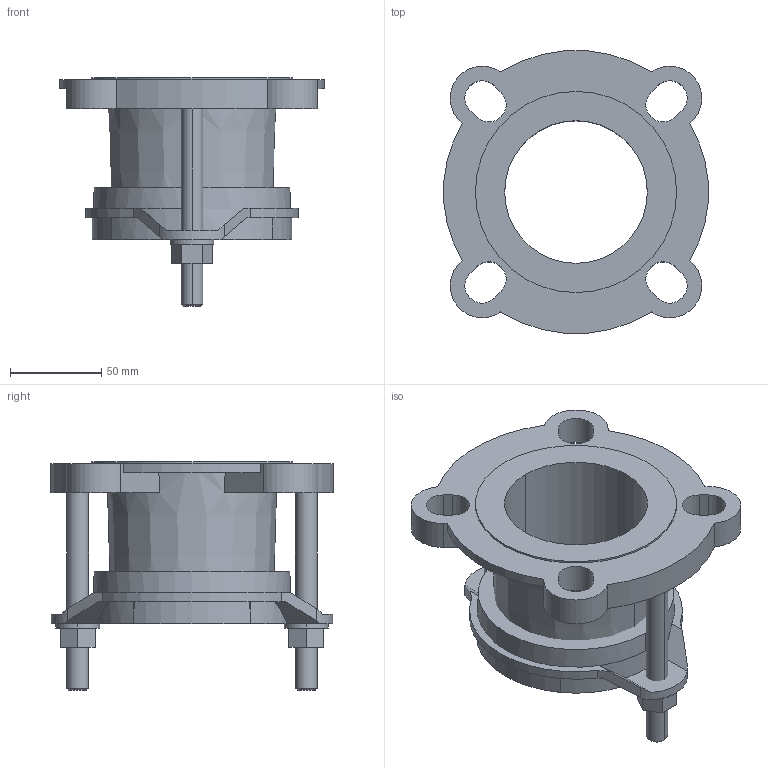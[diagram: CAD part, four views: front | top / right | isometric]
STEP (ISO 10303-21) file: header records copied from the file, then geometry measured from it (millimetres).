
FILE_DESCRIPTION((''),'2;1');
FILE_NAME('FLEXLOCK_76-1_PN_ASM','2020-07-28T',('MReader'),(''),'CREO PARAMETRIC BY PTC INC, 2016130','CREO PARAMETRIC BY PTC INC, 2016130','');
FILE_SCHEMA(('CONFIG_CONTROL_DESIGN'));
Length unit declared in the file: millimetre
Products named in the file (3): FLEXLOCK_ADAPTOR_76-1; FLEXLOCK_ENDRING_76-1; FLEXLOCK_76-1_PN_ASM
Assembly tree (2 placements, depth 2):
  FLEXLOCK_76-1_PN_ASM
    FLEXLOCK_ADAPTOR_76-1
    FLEXLOCK_ENDRING_76-1
Bounding box: 144.57 x 154.5 x 125 mm (x, y, z)
Volume: 451975.7 mm3; surface area: 116394.2 mm2
Topology: 2 solids, 2 shells, 109 faces, 290 edges, 192 vertices
Faces by surface type: plane 61, cylinder 36, cone 12
Entity records: 3548 total; most frequent: CARTESIAN_POINT 668, DIRECTION 594, ORIENTED_EDGE 580, EDGE_CURVE 290, AXIS2_PLACEMENT_3D 214, VERTEX_POINT 192, VECTOR 166, LINE 166
